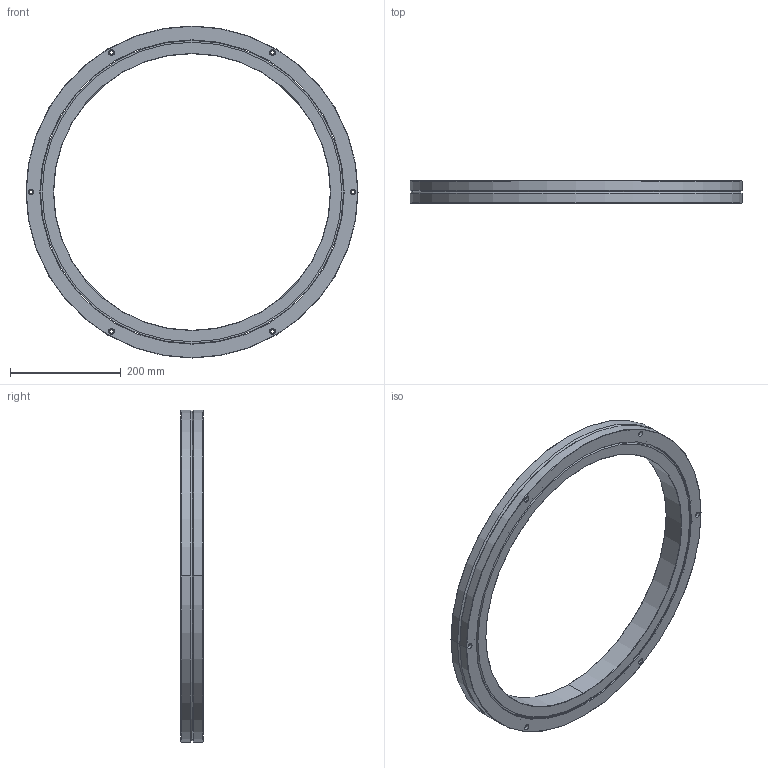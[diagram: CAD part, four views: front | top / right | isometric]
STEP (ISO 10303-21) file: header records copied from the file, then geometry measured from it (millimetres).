
FILE_DESCRIPTION((''),'2;1');
FILE_NAME('RB40040','2015-08-28T',('Administrator'),(''),'PRO/ENGINEER BY PARAMETRIC TECHNOLOGY CORPORATION, 2010180','PRO/ENGINEER BY PARAMETRIC TECHNOLOGY CORPORATION, 2010180','');
FILE_SCHEMA(('AUTOMOTIVE_DESIGN_CC2 { 1 2 10303 214 -1 1 5 2 }'));
Length unit declared in the file: millimetre
Products named in the file (1): RB40040
Bounding box: 600 x 40 x 600 mm (x, y, z)
Volume: 2916535.4 mm3; surface area: 514028.4 mm2
Topology: 2 solids, 2 shells, 104 faces, 220 edges, 138 vertices
Faces by surface type: cylinder 62, plane 22, cone 12, torus 8
Entity records: 2965 total; most frequent: DIRECTION 574, CARTESIAN_POINT 462, ORIENTED_EDGE 440, AXIS2_PLACEMENT_3D 250, EDGE_CURVE 220, CIRCLE 146, VERTEX_POINT 138, EDGE_LOOP 138
